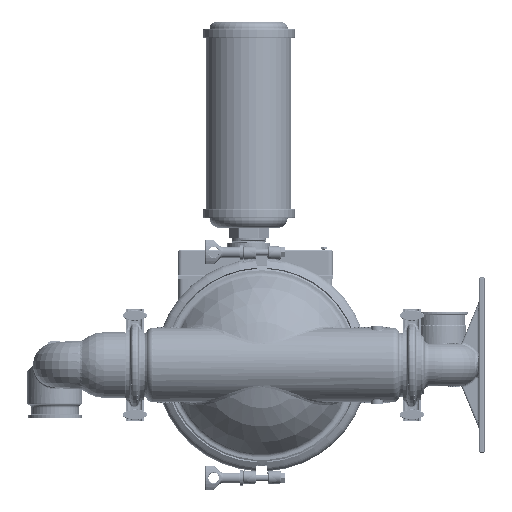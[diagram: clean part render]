
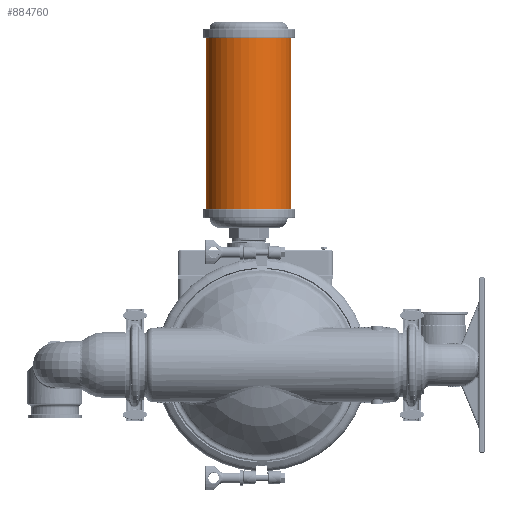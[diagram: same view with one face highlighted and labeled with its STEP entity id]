
A CAD part, left-side view. The second image highlights one B-rep face of the part: STEP entity #884760.
In plain terms, the highlighted cylindrical face has radius 61.722 mm (diameter 123.444 mm), a partial arc.
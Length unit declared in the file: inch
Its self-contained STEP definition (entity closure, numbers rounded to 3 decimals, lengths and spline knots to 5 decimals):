
#565275=DIRECTION('',(0.,0.,1.));
#565276=VECTOR('',#565275,9.78);
#565277=CARTESIAN_POINT('',(0.,3.18,8.905));
#565278=LINE('',#565277,#565276);
#565279=DIRECTION('',(0.,0.,1.));
#565280=VECTOR('',#565279,9.78);
#565281=CARTESIAN_POINT('',(0.,-1.68,8.905));
#565282=LINE('',#565281,#565280);
#565283=CARTESIAN_POINT('',(0.,0.75,8.905));
#565284=DIRECTION('',(0.,0.,1.));
#565285=DIRECTION('',(0.,1.,0.));
#565286=AXIS2_PLACEMENT_3D('',#565283,#565284,#565285);
#565308=CARTESIAN_POINT('',(0.,0.75,18.685));
#565309=DIRECTION('',(0.,0.,1.));
#565310=DIRECTION('',(0.,1.,0.));
#565311=AXIS2_PLACEMENT_3D('',#565308,#565309,#565310);
#774483=CARTESIAN_POINT('',(0.,3.18,8.905));
#774484=CARTESIAN_POINT('',(0.,3.18,18.685));
#774485=VERTEX_POINT('',#774483);
#774486=VERTEX_POINT('',#774484);
#774487=CARTESIAN_POINT('',(0.,-1.68,8.905));
#774488=CARTESIAN_POINT('',(0.,-1.68,18.685));
#774489=VERTEX_POINT('',#774487);
#774490=VERTEX_POINT('',#774488);
#884746=CARTESIAN_POINT('',(0.,0.75,20.1725));
#884747=DIRECTION('',(0.,0.,-1.));
#884748=DIRECTION('',(0.,-1.,0.));
#884749=AXIS2_PLACEMENT_3D('',#884746,#884747,#884748);
#884750=CYLINDRICAL_SURFACE('',#884749,2.43);
#884752=ORIENTED_EDGE('',*,*,#884751,.T.);
#884754=ORIENTED_EDGE('',*,*,#884753,.T.);
#884756=ORIENTED_EDGE('',*,*,#884755,.F.);
#884757=ORIENTED_EDGE('',*,*,#884727,.F.);
#884758=EDGE_LOOP('',(#884752,#884754,#884756,#884757));
#884759=FACE_OUTER_BOUND('',#884758,.F.);
#565287=CIRCLE('',#565286,2.43);
#565312=CIRCLE('',#565311,2.43);
#884727=EDGE_CURVE('',#774485,#774489,#565287,.T.);
#884751=EDGE_CURVE('',#774485,#774486,#565278,.T.);
#884753=EDGE_CURVE('',#774486,#774490,#565312,.T.);
#884755=EDGE_CURVE('',#774489,#774490,#565282,.T.);
#884760=ADVANCED_FACE('',(#884759),#884750,.T.);
